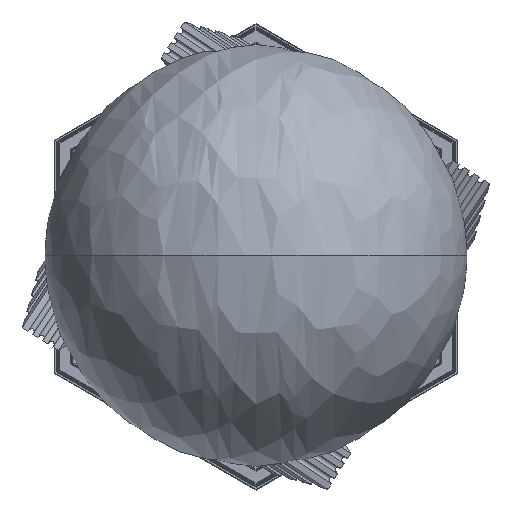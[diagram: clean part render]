
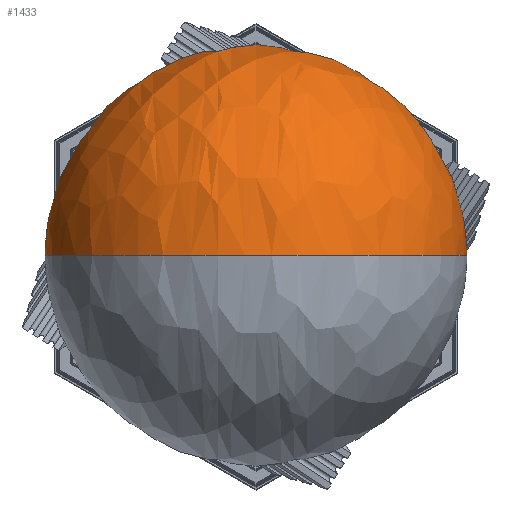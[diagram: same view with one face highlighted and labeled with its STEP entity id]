
A CAD part, top view. The second image highlights one B-rep face of the part: STEP entity #1433.
In plain terms, the highlighted free-form (B-spline) face has degree [2, 2] with [5, 5] control points.
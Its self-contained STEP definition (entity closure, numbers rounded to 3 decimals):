
#1433=ADVANCED_FACE('',(#2688),#16915,.T.);
#2688=FACE_OUTER_BOUND('',#3951,.T.);
#3951=EDGE_LOOP('',(#9619,#9620));
#9619=ORIENTED_EDGE('',*,*,#12460,.T.);
#9620=ORIENTED_EDGE('',*,*,#12459,.F.);
#12459=EDGE_CURVE('',#16901,#16902,#12694,.T.);
#12460=EDGE_CURVE('',#16901,#16902,#12695,.T.);
#12694=(
BOUNDED_CURVE()
B_SPLINE_CURVE(2,(#30616,#30617,#30618,#30619,#30620),.UNSPECIFIED.,.F.,
 .F.)
B_SPLINE_CURVE_WITH_KNOTS((3,2,3),(-172.788,0.,172.788),
 .UNSPECIFIED.)
CURVE()
GEOMETRIC_REPRESENTATION_ITEM()
RATIONAL_B_SPLINE_CURVE((1.,0.707,1.,0.707,1.))
REPRESENTATION_ITEM('')
);
#12695=(
BOUNDED_CURVE()
B_SPLINE_CURVE(2,(#30621,#30622,#30623,#30624,#30625),.UNSPECIFIED.,.F.,
 .F.)
B_SPLINE_CURVE_WITH_KNOTS((3,2,3),(-172.788,0.,172.788),
 .UNSPECIFIED.)
CURVE()
GEOMETRIC_REPRESENTATION_ITEM()
RATIONAL_B_SPLINE_CURVE((1.,0.707,1.,0.707,1.))
REPRESENTATION_ITEM('')
);
#16901=VERTEX_POINT('',#30614);
#16902=VERTEX_POINT('',#30615);
#16915=(
BOUNDED_SURFACE()
B_SPLINE_SURFACE(2,2,((#30564,#30565,#30566,#30567,#30568),(#30569,#30570,
#30571,#30572,#30573),(#30574,#30575,#30576,#30577,#30578),(#30579,#30580,
#30581,#30582,#30583),(#30584,#30585,#30586,#30587,#30588)),
 .UNSPECIFIED.,.F.,.F.,.F.)
B_SPLINE_SURFACE_WITH_KNOTS((3,2,3),(3,2,3),(0.,172.788,345.575),
(-172.788,0.,172.788),.UNSPECIFIED.)
GEOMETRIC_REPRESENTATION_ITEM()
RATIONAL_B_SPLINE_SURFACE(((1.,0.707,1.,0.707,1.),
(0.707,0.5,0.707,0.5,0.707),(1.,0.707,
1.,0.707,1.),(0.707,0.5,0.707,0.5,0.707),
(1.,0.707,1.,0.707,1.)))
REPRESENTATION_ITEM('')
SURFACE()
);
#30564=CARTESIAN_POINT('',(110.,0.,430.));
#30565=CARTESIAN_POINT('',(110.,0.,540.));
#30566=CARTESIAN_POINT('',(0.,0.,540.));
#30567=CARTESIAN_POINT('',(-110.,0.,540.));
#30568=CARTESIAN_POINT('',(-110.,0.,430.));
#30569=CARTESIAN_POINT('',(110.,0.,430.));
#30570=CARTESIAN_POINT('',(110.,110.,540.));
#30571=CARTESIAN_POINT('',(0.,110.,540.));
#30572=CARTESIAN_POINT('',(-110.,110.,540.));
#30573=CARTESIAN_POINT('',(-110.,0.,430.));
#30574=CARTESIAN_POINT('',(110.,0.,430.));
#30575=CARTESIAN_POINT('',(110.,110.,430.));
#30576=CARTESIAN_POINT('',(0.,110.,430.));
#30577=CARTESIAN_POINT('',(-110.,110.,430.));
#30578=CARTESIAN_POINT('',(-110.,0.,430.));
#30579=CARTESIAN_POINT('',(110.,0.,430.));
#30580=CARTESIAN_POINT('',(110.,110.,320.));
#30581=CARTESIAN_POINT('',(0.,110.,320.));
#30582=CARTESIAN_POINT('',(-110.,110.,320.));
#30583=CARTESIAN_POINT('',(-110.,0.,430.));
#30584=CARTESIAN_POINT('',(110.,0.,430.));
#30585=CARTESIAN_POINT('',(110.,0.,320.));
#30586=CARTESIAN_POINT('',(0.,0.,320.));
#30587=CARTESIAN_POINT('',(-110.,0.,320.));
#30588=CARTESIAN_POINT('',(-110.,0.,430.));
#30614=CARTESIAN_POINT('',(110.,0.,430.));
#30615=CARTESIAN_POINT('',(-110.,0.,430.));
#30616=CARTESIAN_POINT('',(110.,0.,430.));
#30617=CARTESIAN_POINT('',(110.,0.,540.));
#30618=CARTESIAN_POINT('',(0.,0.,540.));
#30619=CARTESIAN_POINT('',(-110.,0.,540.));
#30620=CARTESIAN_POINT('',(-110.,0.,430.));
#30621=CARTESIAN_POINT('',(110.,0.,430.));
#30622=CARTESIAN_POINT('',(110.,0.,320.));
#30623=CARTESIAN_POINT('',(0.,0.,320.));
#30624=CARTESIAN_POINT('',(-110.,0.,320.));
#30625=CARTESIAN_POINT('',(-110.,0.,430.));
